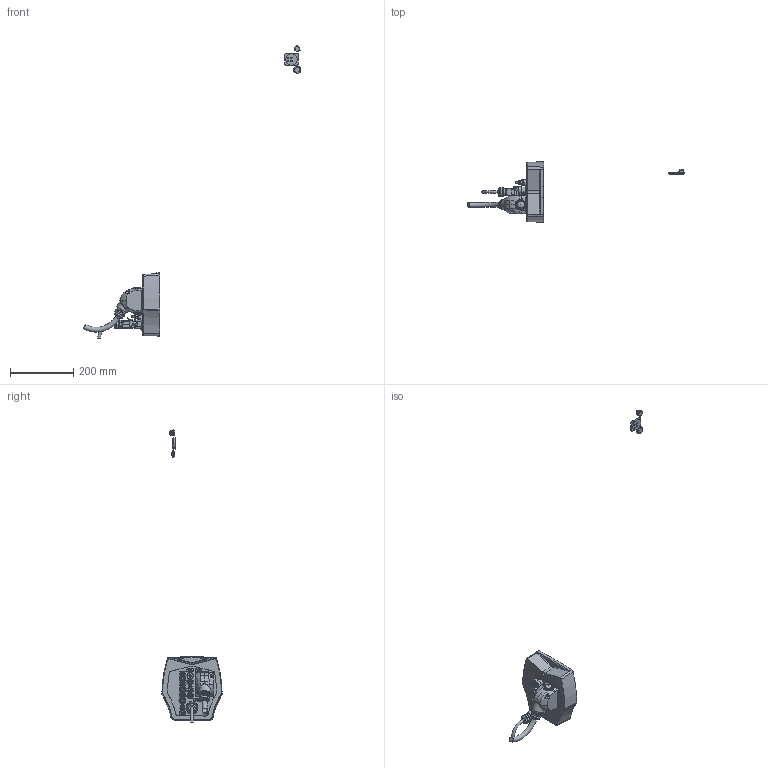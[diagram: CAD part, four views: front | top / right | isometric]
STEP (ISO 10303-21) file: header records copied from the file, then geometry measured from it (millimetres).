
FILE_DESCRIPTION(/* description */ (''),/* implementation_level */ '2;1');
FILE_NAME(/* name */ 'KR_6_R900-2_CTR_AIR_V01.stp',/* time_stamp */ '2018-02-12T11:18:41+01:00',/* author */ (''),/* organization */ (''),/* preprocessor_version */ 'ST-DEVELOPER v15',/* originating_system */ 'SIEMENS PLM Software NX 9.0',/* authorisation */ '');
FILE_SCHEMA (('AUTOMOTIVE_DESIGN { 1 0 10303 214 3 1 1 1 }'));
Products named in the file (1): grae193045AE0z0u
Bounding box: 686.34 x 189.98 x 921 mm (x, y, z)
Volume: 2062205 mm3; surface area: 189242.2 mm2
Topology: 28 solids, 30 shells, 2133 faces, 5500 edges, 3644 vertices
Faces by surface type: plane 1178, extrusion 551, cylinder 271, bspline 80, cone 39, torus 8, sphere 6
Full cylindrical faces by diameter (mm): 2.5 x1, 3.2 x2, 3.3 x1, 3.8 x3, 4 x6, 4.2 x8, 4.8 x3, 5 x10, 5.5 x2, 6 x8, 6.9 x4, 7 x3, 8 x6, 8.06 x1, 8.42 x1, 8.7 x2, 8.8 x3, 9 x3, 9.7 x1, 11 x2, 11.8 x1, 12 x4, 13 x3, 13.3 x1, 14 x2, 14.4 x1, 15 x1, 15.2 x2, 16 x1, 17 x2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
Entity records: 74739 total; most frequent: CARTESIAN_POINT 27221, ORIENTED_EDGE 10656, DIRECTION 7341, EDGE_CURVE 5328, VERTEX_POINT 3585, VECTOR 3091, B_SPLINE_CURVE_WITH_KNOTS 2665, LINE 2540
